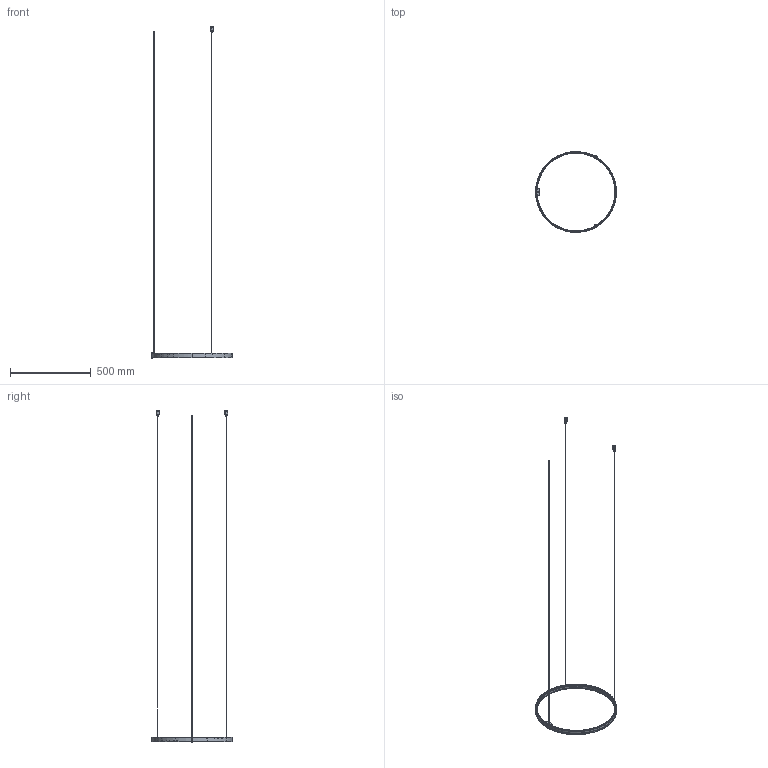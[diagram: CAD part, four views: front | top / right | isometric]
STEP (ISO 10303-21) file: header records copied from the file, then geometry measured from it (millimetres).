
FILE_DESCRIPTION(/* description */ (''),/* implementation_level */ '2;1');
FILE_NAME(/* name */ 'Zero Round M153__.050',/* time_stamp */ '2025-05-29T10:37:26+02:00',/* author */ (''),/* organization */ (''),/* preprocessor_version */ 'ST-DEVELOPER v16.5',/* originating_system */ '',/* authorisation */ '');
FILE_SCHEMA (('AUTOMOTIVE_DESIGN'));
Length unit declared in the file: millimetre
Products named in the file (10): Document; 3300.0097000.00 (profilo curvo Zero Round sospensione ALL 7,7x30mm D 
est. 500mm)_3306.0097360.00; 3100.0025000.00 (schermo estruso Giplast 09PE79 PC 19x3,8mm per curva
 D int. 482mm)_3101.0025360.98; 5402.0001000.00 (fune ACC 19 fili D 1,2mm con cilindro terminale 3x3m
m)_5402.0001200.00; 4501.0009000.00 (cavo schermato FR5FH2R-FX 1xAWG20 trasparente)_4501.
0009200.00; 5200.0002000.00 (dispositivo regolazione fune OTTONE nichelato con in
nesto maschio M10 L 14mm)_5200.0002000.00; 3300.0298000.00 (manicotto per sospensione singola ALL D 20mm H 32mm 
con foro M10x1)_3302.0298000.00; 3200.0200001.00 (copertura giunzione con foro M8 ACC 60,2x19mm H 23mm
 sp 1)_3209.0200001.00; 5205.0004007.00 (nipplo D 10mm sp 2 gambo H 7mm M8x1 PC trasparente S
teab 5475-3-07-011)_5205.0004007.00; 5401.0016000.00 (molla in nastro sagomata ACC INOX 5x31x5mm sp 0,4)_5
401.0016000.00
Assembly tree (12 placements, depth 2):
  Document
    3300.0097000.00 (profilo curvo Zero Round sospensione ALL 7,7x30mm D 
est. 500mm)_3306.0097360.00
    3100.0025000.00 (schermo estruso Giplast 09PE79 PC 19x3,8mm per curva
 D int. 482mm)_3101.0025360.98
    5402.0001000.00 (fune ACC 19 fili D 1,2mm con cilindro terminale 3x3m
m)_5402.0001200.00  x2
    4501.0009000.00 (cavo schermato FR5FH2R-FX 1xAWG20 trasparente)_4501.
0009200.00
    5200.0002000.00 (dispositivo regolazione fune OTTONE nichelato con in
nesto maschio M10 L 14mm)_5200.0002000.00  x2
    3300.0298000.00 (manicotto per sospensione singola ALL D 20mm H 32mm 
con foro M10x1)_3302.0298000.00  x2
    3200.0200001.00 (copertura giunzione con foro M8 ACC 60,2x19mm H 23mm
 sp 1)_3209.0200001.00
    5205.0004007.00 (nipplo D 10mm sp 2 gambo H 7mm M8x1 PC trasparente S
teab 5475-3-07-011)_5205.0004007.00
    5401.0016000.00 (molla in nastro sagomata ACC INOX 5x31x5mm sp 0,4)_5
401.0016000.00
Bounding box: 500.37 x 500 x 2055.45 mm (x, y, z)
Volume: 279978.8 mm3; surface area: 288129.1 mm2
Topology: 17 solids, 17 shells, 517 faces, 1249 edges, 769 vertices
Faces by surface type: bspline 393, plane 124
Entity records: 24499 total; most frequent: CARTESIAN_POINT 18398, ORIENTED_EDGE 2034, EDGE_CURVE 1017, VERTEX_POINT 621, B_SPLINE_CURVE_WITH_KNOTS 459, EDGE_LOOP 440, ADVANCED_FACE 420, FACE_OUTER_BOUND 420
